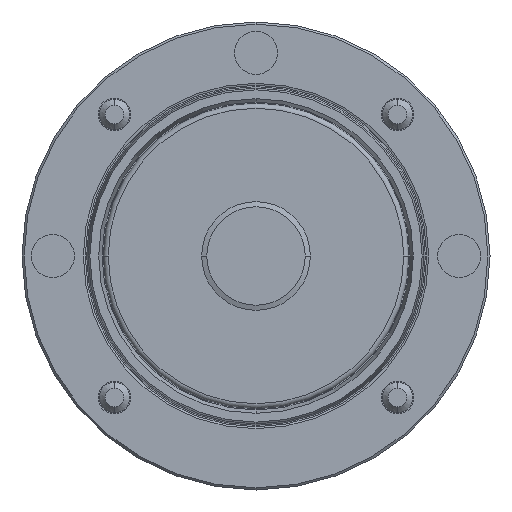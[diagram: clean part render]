
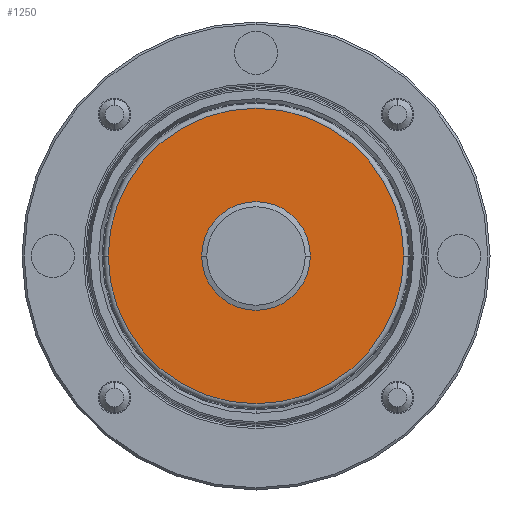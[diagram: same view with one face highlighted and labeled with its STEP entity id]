
A CAD part, front view. The second image highlights one B-rep face of the part: STEP entity #1250.
In plain terms, the highlighted planar face has unit normal (0, -1, 0).
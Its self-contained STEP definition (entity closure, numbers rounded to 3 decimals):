
#721 = EDGE_CURVE ( 'NONE', #728, #755, #4747, .T. ) ;
#728 = VERTEX_POINT ( 'NONE', #4722 ) ;
#740 = VERTEX_POINT ( 'NONE', #4754 ) ;
#755 = VERTEX_POINT ( 'NONE', #4806 ) ;
#805 = EDGE_CURVE ( 'NONE', #811, #740, #4879, .T. ) ;
#811 = VERTEX_POINT ( 'NONE', #4912 ) ;
#857 = EDGE_LOOP ( 'NONE', ( #1261, #1251 ) ) ;
#1065 = ORIENTED_EDGE ( 'NONE', *, *, #721, .T. ) ;
#1127 = EDGE_LOOP ( 'NONE', ( #1065, #1262 ) ) ;
#1194 = EDGE_CURVE ( 'NONE', #740, #811, #5110, .T. ) ;
#1199 = EDGE_CURVE ( 'NONE', #755, #728, #5155, .T. ) ;
#1250 = ADVANCED_FACE ( 'NONE', ( #5255, #5257 ), #5300, .F. ) ;
#1251 = ORIENTED_EDGE ( 'NONE', *, *, #805, .T. ) ;
#1261 = ORIENTED_EDGE ( 'NONE', *, *, #1194, .T. ) ;
#1262 = ORIENTED_EDGE ( 'NONE', *, *, #1199, .T. ) ;
#4720 = DIRECTION ( 'NONE',  ( 0., 0., 1. ) ) ;
#4721 = DIRECTION ( 'NONE',  ( 0., 1., 0. ) ) ;
#4722 = CARTESIAN_POINT ( 'NONE',  ( 0., -13., 8.824 ) ) ;
#4740 = AXIS2_PLACEMENT_3D ( 'NONE', #4748, #4721, #4720 ) ;
#4747 = CIRCLE ( 'NONE', #4740, 8.824 ) ;
#4748 = CARTESIAN_POINT ( 'NONE',  ( 0., -13., 0. ) ) ;
#4754 = CARTESIAN_POINT ( 'NONE',  ( 0., -13., 24. ) ) ;
#4806 = CARTESIAN_POINT ( 'NONE',  ( 0., -13., -8.824 ) ) ;
#4865 = CARTESIAN_POINT ( 'NONE',  ( 0., -13., 0. ) ) ;
#4866 = AXIS2_PLACEMENT_3D ( 'NONE', #4865, #4917, #4916 ) ;
#4879 = CIRCLE ( 'NONE', #4866, 24. ) ;
#4912 = CARTESIAN_POINT ( 'NONE',  ( 0., -13., -24. ) ) ;
#4916 = DIRECTION ( 'NONE',  ( 0., 0., 1. ) ) ;
#4917 = DIRECTION ( 'NONE',  ( 0., -1., 0. ) ) ;
#5110 = CIRCLE ( 'NONE', #5167, 24. ) ;
#5146 = DIRECTION ( 'NONE',  ( 0., 0., 1. ) ) ;
#5152 = AXIS2_PLACEMENT_3D ( 'NONE', #5163, #5166, #5146 ) ;
#5155 = CIRCLE ( 'NONE', #5152, 8.824 ) ;
#5157 = DIRECTION ( 'NONE',  ( 0., 0., 1. ) ) ;
#5161 = DIRECTION ( 'NONE',  ( 0., -1., 0. ) ) ;
#5163 = CARTESIAN_POINT ( 'NONE',  ( 0., -13., 0. ) ) ;
#5165 = CARTESIAN_POINT ( 'NONE',  ( 0., -13., 0. ) ) ;
#5166 = DIRECTION ( 'NONE',  ( 0., 1., 0. ) ) ;
#5167 = AXIS2_PLACEMENT_3D ( 'NONE', #5165, #5161, #5157 ) ;
#5255 = FACE_OUTER_BOUND ( 'NONE', #857, .T. ) ;
#5257 = FACE_BOUND ( 'NONE', #1127, .T. ) ;
#5293 = DIRECTION ( 'NONE',  ( 0., 0., 1. ) ) ;
#5300 = PLANE ( 'NONE',  #5303 ) ;
#5301 = DIRECTION ( 'NONE',  ( 0., 1., 0. ) ) ;
#5302 = CARTESIAN_POINT ( 'NONE',  ( 24.8, -13., 0. ) ) ;
#5303 = AXIS2_PLACEMENT_3D ( 'NONE', #5302, #5301, #5293 ) ;
